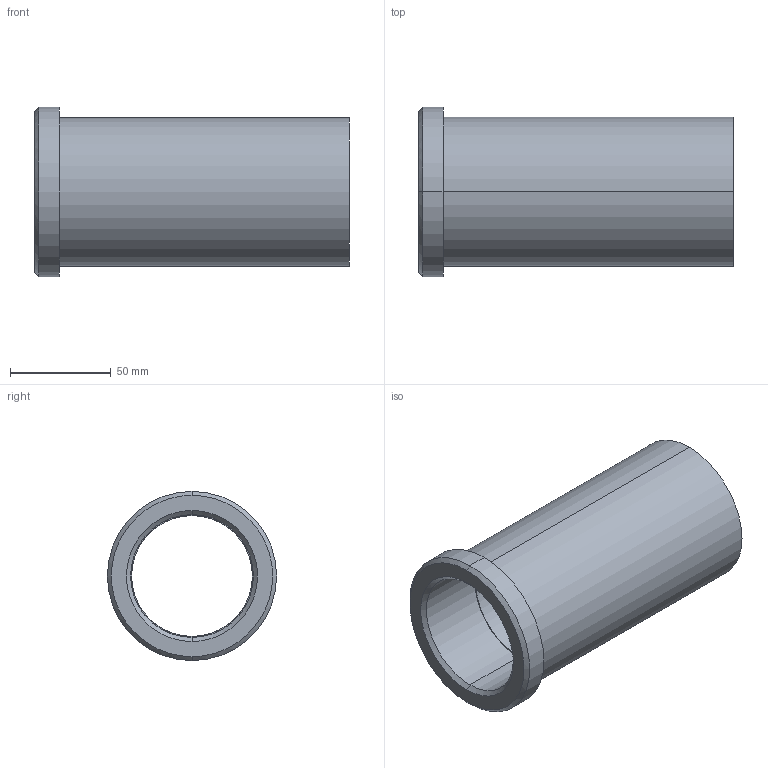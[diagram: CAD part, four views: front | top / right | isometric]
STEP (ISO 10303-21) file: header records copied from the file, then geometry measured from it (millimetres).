
FILE_DESCRIPTION(('CATIA V5 STEP Exchange'),'2;1');
FILE_NAME('C:\Users\Utente\Desktop\IO LAVORO\3D X SITO CF\X SITO\PLASTICA\353\353-60X156.stp','2021-05-14T17:56:21+00:00',('none'),('none'),'CATIA Version 5 Release 20 GA (IN-10)','CATIA V5 STEP AP203','none');
FILE_SCHEMA(('CONFIG_CONTROL_DESIGN'));
Length unit declared in the file: millimetre
Products named in the file (1): 353-60x156
Bounding box: 156 x 84 x 84 mm (x, y, z)
Volume: 240038.2 mm3; surface area: 70818.2 mm2
Topology: 1 solids, 1 shells, 18 faces, 58 edges, 44 vertices
Faces by surface type: cylinder 8, plane 4, cone 4, torus 2
Entity records: 840 total; most frequent: CARTESIAN_POINT 289, ORIENTED_EDGE 116, DIRECTION 82, EDGE_CURVE 58, AXIS2_PLACEMENT_3D 53, VERTEX_POINT 44, CIRCLE 34, EDGE_LOOP 22
